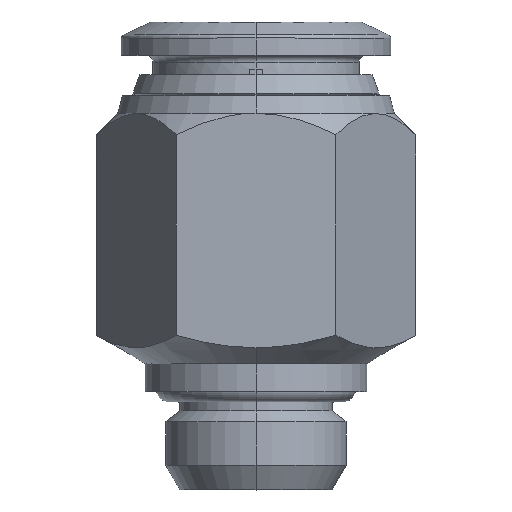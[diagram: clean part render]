
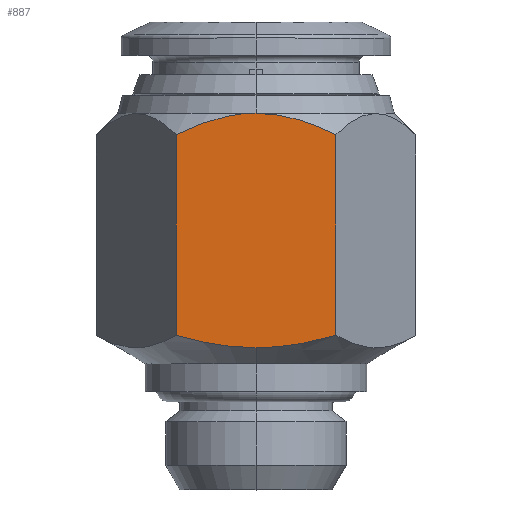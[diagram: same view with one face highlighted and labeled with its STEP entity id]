
A CAD part, top view. The second image highlights one B-rep face of the part: STEP entity #887.
In plain terms, the highlighted planar face has unit normal (0, 0, 1).
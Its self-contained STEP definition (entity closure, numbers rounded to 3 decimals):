
#31 = EDGE_CURVE ( 'NONE', #1737, #66, #1502, .T. ) ;
#64 = CARTESIAN_POINT ( 'NONE',  ( -2.006, 19.911, 10. ) ) ;
#66 = VERTEX_POINT ( 'NONE', #2977 ) ;
#192 = ORIENTED_EDGE ( 'NONE', *, *, #640, .F. ) ;
#319 = CARTESIAN_POINT ( 'NONE',  ( -0.253, 20.098, 10. ) ) ;
#340 = EDGE_CURVE ( 'NONE', #1930, #2467, #2627, .T. ) ;
#355 = VECTOR ( 'NONE', #838, 1000. ) ;
#371 = CARTESIAN_POINT ( 'NONE',  ( 0., 3.155, 10. ) ) ;
#374 = B_SPLINE_CURVE_WITH_KNOTS ( 'NONE', 3,
 ( #1084, #3038, #487, #3541, #2174, #785 ),
 .UNSPECIFIED., .F., .F.,
 ( 4, 2, 4 ),
 ( 0.033, 0.036, 0.039 ),
 .UNSPECIFIED. ) ;
#428 = PLANE ( 'NONE',  #829 ) ;
#486 = CARTESIAN_POINT ( 'NONE',  ( -5.774, 18.551, 10. ) ) ;
#487 = CARTESIAN_POINT ( 'NONE',  ( -1.945, 3.239, 10. ) ) ;
#522 = DIRECTION ( 'NONE',  ( 0., 1., 0. ) ) ;
#635 = CARTESIAN_POINT ( 'NONE',  ( -5.774, 18.551, 10. ) ) ;
#640 = EDGE_CURVE ( 'NONE', #2467, #944, #2141, .T. ) ;
#668 = CARTESIAN_POINT ( 'NONE',  ( 5.774, 4.048, 10. ) ) ;
#669 = CARTESIAN_POINT ( 'NONE',  ( 5.326, 18.775, 10. ) ) ;
#690 = EDGE_CURVE ( 'NONE', #66, #1524, #374, .T. ) ;
#785 = CARTESIAN_POINT ( 'NONE',  ( -5.774, 4.048, 10. ) ) ;
#829 = AXIS2_PLACEMENT_3D ( 'NONE', #1622, #1078, #1634 ) ;
#838 = DIRECTION ( 'NONE',  ( 0., 1., 0. ) ) ;
#887 = ADVANCED_FACE ( 'NONE', ( #2658 ), #428, .T. ) ;
#935 = CARTESIAN_POINT ( 'NONE',  ( 1.961, 3.258, 10. ) ) ;
#944 = VERTEX_POINT ( 'NONE', #3266 ) ;
#957 = CARTESIAN_POINT ( 'NONE',  ( 5.774, 18.551, 10. ) ) ;
#1078 = DIRECTION ( 'NONE',  ( 0., 0., 1. ) ) ;
#1082 = CARTESIAN_POINT ( 'NONE',  ( 5.774, 1.4, 10. ) ) ;
#1084 = CARTESIAN_POINT ( 'NONE',  ( 0., 3.155, 10. ) ) ;
#1170 = CARTESIAN_POINT ( 'NONE',  ( -5.325, 18.776, 10. ) ) ;
#1231 = CARTESIAN_POINT ( 'NONE',  ( -2.494, 19.802, 10. ) ) ;
#1366 = CARTESIAN_POINT ( 'NONE',  ( -5.774, 4.048, 10. ) ) ;
#1377 = LINE ( 'NONE', #1082, #3492 ) ;
#1410 = ORIENTED_EDGE ( 'NONE', *, *, #690, .F. ) ;
#1462 = CARTESIAN_POINT ( 'NONE',  ( 0., 20.098, 10. ) ) ;
#1502 = B_SPLINE_CURVE_WITH_KNOTS ( 'NONE', 3,
 ( #668, #2331, #3420, #2910, #935, #2609, #2058, #371 ),
 .UNSPECIFIED., .F., .F.,
 ( 4, 2, 2, 4 ),
 ( 0.028, 0.03, 0.032, 0.033 ),
 .UNSPECIFIED. ) ;
#1524 = VERTEX_POINT ( 'NONE', #1366 ) ;
#1622 = CARTESIAN_POINT ( 'NONE',  ( -5.774, 1.4, 10. ) ) ;
#1634 = DIRECTION ( 'NONE',  ( 1., 0., 0. ) ) ;
#1650 = EDGE_LOOP ( 'NONE', ( #3552, #192, #2241, #3574, #1410, #3526 ) ) ;
#1655 = LINE ( 'NONE', #1975, #355 ) ;
#1711 = CARTESIAN_POINT ( 'NONE',  ( -1.013, 20.05, 10. ) ) ;
#1737 = VERTEX_POINT ( 'NONE', #2941 ) ;
#1792 = CARTESIAN_POINT ( 'NONE',  ( -1.263, 20.022, 10. ) ) ;
#1808 = CARTESIAN_POINT ( 'NONE',  ( 3.454, 19.529, 10. ) ) ;
#1911 = EDGE_CURVE ( 'NONE', #1737, #944, #1377, .T. ) ;
#1930 = VERTEX_POINT ( 'NONE', #486 ) ;
#1975 = CARTESIAN_POINT ( 'NONE',  ( -5.774, 1.4, 10. ) ) ;
#2058 = CARTESIAN_POINT ( 'NONE',  ( 0.488, 3.155, 10. ) ) ;
#2060 = CARTESIAN_POINT ( 'NONE',  ( 1.013, 20.098, 10. ) ) ;
#2141 = B_SPLINE_CURVE_WITH_KNOTS ( 'NONE', 3,
 ( #2332, #2060, #3161, #1808, #3188, #3436, #669, #957 ),
 .UNSPECIFIED., .F., .F.,
 ( 4, 2, 2, 4 ),
 ( 0.015, 0.018, 0.019, 0.021 ),
 .UNSPECIFIED. ) ;
#2174 = CARTESIAN_POINT ( 'NONE',  ( -4.834, 3.777, 10. ) ) ;
#2241 = ORIENTED_EDGE ( 'NONE', *, *, #340, .F. ) ;
#2276 = CARTESIAN_POINT ( 'NONE',  ( -3.455, 19.528, 10. ) ) ;
#2322 = CARTESIAN_POINT ( 'NONE',  ( -0.508, 20.089, 10. ) ) ;
#2331 = CARTESIAN_POINT ( 'NONE',  ( 4.84, 3.778, 10. ) ) ;
#2332 = CARTESIAN_POINT ( 'NONE',  ( 0., 20.098, 10. ) ) ;
#2467 = VERTEX_POINT ( 'NONE', #3576 ) ;
#2609 = CARTESIAN_POINT ( 'NONE',  ( 0.978, 3.175, 10. ) ) ;
#2627 = B_SPLINE_CURVE_WITH_KNOTS ( 'NONE', 3,
 ( #635, #1170, #3166, #2881, #2276, #1231, #64, #1792, #1711, #2322, #319, #1462 ),
 .UNSPECIFIED., .F., .F.,
 ( 4, 2, 2, 2, 2, 4 ),
 ( 0.009, 0.01, 0.012, 0.013, 0.014, 0.015 ),
 .UNSPECIFIED. ) ;
#2658 = FACE_OUTER_BOUND ( 'NONE', #1650, .T. ) ;
#2881 = CARTESIAN_POINT ( 'NONE',  ( -3.928, 19.363, 10. ) ) ;
#2910 = CARTESIAN_POINT ( 'NONE',  ( 2.448, 3.319, 10. ) ) ;
#2941 = CARTESIAN_POINT ( 'NONE',  ( 5.774, 4.048, 10. ) ) ;
#2977 = CARTESIAN_POINT ( 'NONE',  ( 0., 3.155, 10. ) ) ;
#3038 = CARTESIAN_POINT ( 'NONE',  ( -0.976, 3.155, 10. ) ) ;
#3161 = CARTESIAN_POINT ( 'NONE',  ( 2.001, 19.942, 10. ) ) ;
#3166 = CARTESIAN_POINT ( 'NONE',  ( -4.864, 18.986, 10. ) ) ;
#3188 = CARTESIAN_POINT ( 'NONE',  ( 3.936, 19.36, 10. ) ) ;
#3242 = EDGE_CURVE ( 'NONE', #1524, #1930, #1655, .T. ) ;
#3266 = CARTESIAN_POINT ( 'NONE',  ( 5.774, 18.551, 10. ) ) ;
#3420 = CARTESIAN_POINT ( 'NONE',  ( 3.894, 3.554, 10. ) ) ;
#3436 = CARTESIAN_POINT ( 'NONE',  ( 4.87, 18.984, 10. ) ) ;
#3492 = VECTOR ( 'NONE', #522, 1000. ) ;
#3526 = ORIENTED_EDGE ( 'NONE', *, *, #31, .F. ) ;
#3541 = CARTESIAN_POINT ( 'NONE',  ( -3.873, 3.549, 10. ) ) ;
#3552 = ORIENTED_EDGE ( 'NONE', *, *, #1911, .T. ) ;
#3574 = ORIENTED_EDGE ( 'NONE', *, *, #3242, .F. ) ;
#3576 = CARTESIAN_POINT ( 'NONE',  ( 0., 20.098, 10. ) ) ;
